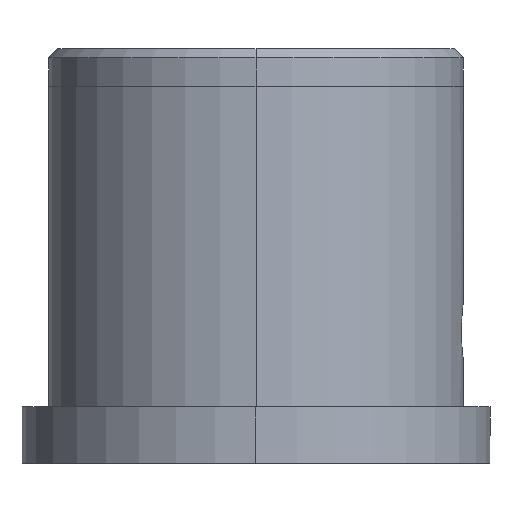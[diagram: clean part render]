
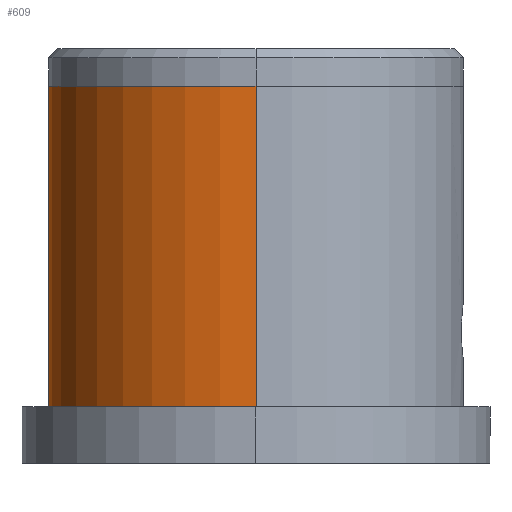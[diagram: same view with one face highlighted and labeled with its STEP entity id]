
A CAD part, left-side view. The second image highlights one B-rep face of the part: STEP entity #609.
In plain terms, the highlighted cylindrical face has radius 17.469 mm (diameter 34.938 mm), a partial arc.
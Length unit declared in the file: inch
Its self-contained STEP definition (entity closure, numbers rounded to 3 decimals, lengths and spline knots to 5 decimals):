
#9 = EDGE_CURVE ( 'NONE', #768, #351, #73, .T. ) ;
#20 = CYLINDRICAL_SURFACE ( 'NONE', #318, 0.68775 ) ;
#47 = EDGE_LOOP ( 'NONE', ( #240, #396, #445, #329 ) ) ;
#73 = LINE ( 'NONE', #650, #186 ) ;
#118 = FACE_OUTER_BOUND ( 'NONE', #47, .T. ) ;
#123 = DIRECTION ( 'NONE',  ( 0., 0., -1. ) ) ;
#125 = DIRECTION ( 'NONE',  ( -1., 0., 0. ) ) ;
#129 = EDGE_CURVE ( 'NONE', #316, #351, #838, .T. ) ;
#132 = DIRECTION ( 'NONE',  ( 0., 0., -1. ) ) ;
#141 = DIRECTION ( 'NONE',  ( 0., 0., -1. ) ) ;
#145 = AXIS2_PLACEMENT_3D ( 'NONE', #847, #141, #196 ) ;
#184 = DIRECTION ( 'NONE',  ( 0., 0., -1. ) ) ;
#186 = VECTOR ( 'NONE', #184, 39.37008 ) ;
#196 = DIRECTION ( 'NONE',  ( -1., 0., 0. ) ) ;
#200 = VERTEX_POINT ( 'NONE', #672 ) ;
#235 = LINE ( 'NONE', #557, #730 ) ;
#240 = ORIENTED_EDGE ( 'NONE', *, *, #441, .T. ) ;
#249 = EDGE_CURVE ( 'NONE', #200, #316, #235, .T. ) ;
#316 = VERTEX_POINT ( 'NONE', #362 ) ;
#318 = AXIS2_PLACEMENT_3D ( 'NONE', #722, #132, #653 ) ;
#329 = ORIENTED_EDGE ( 'NONE', *, *, #249, .F. ) ;
#351 = VERTEX_POINT ( 'NONE', #573 ) ;
#362 = CARTESIAN_POINT ( 'NONE',  ( -0.68775, 0., 0.187 ) ) ;
#396 = ORIENTED_EDGE ( 'NONE', *, *, #9, .T. ) ;
#441 = EDGE_CURVE ( 'NONE', #200, #768, #490, .T. ) ;
#445 = ORIENTED_EDGE ( 'NONE', *, *, #129, .F. ) ;
#490 = CIRCLE ( 'NONE', #547, 0.68775 ) ;
#521 = CARTESIAN_POINT ( 'NONE',  ( 0., 0., 1.25 ) ) ;
#547 = AXIS2_PLACEMENT_3D ( 'NONE', #521, #123, #125 ) ;
#550 = CARTESIAN_POINT ( 'NONE',  ( 0.68775, 0., 1.25 ) ) ;
#557 = CARTESIAN_POINT ( 'NONE',  ( -0.68775, 0., 0. ) ) ;
#573 = CARTESIAN_POINT ( 'NONE',  ( 0.68775, 0., 0.187 ) ) ;
#609 = ADVANCED_FACE ( 'NONE', ( #118 ), #20, .T. ) ;
#629 = DIRECTION ( 'NONE',  ( 0., 0., -1. ) ) ;
#650 = CARTESIAN_POINT ( 'NONE',  ( 0.68775, 0., 0. ) ) ;
#653 = DIRECTION ( 'NONE',  ( -1., 0., 0. ) ) ;
#672 = CARTESIAN_POINT ( 'NONE',  ( -0.68775, 0., 1.25 ) ) ;
#722 = CARTESIAN_POINT ( 'NONE',  ( 0., 0., 0. ) ) ;
#730 = VECTOR ( 'NONE', #629, 39.37008 ) ;
#768 = VERTEX_POINT ( 'NONE', #550 ) ;
#838 = CIRCLE ( 'NONE', #145, 0.68775 ) ;
#847 = CARTESIAN_POINT ( 'NONE',  ( 0., 0., 0.187 ) ) ;
